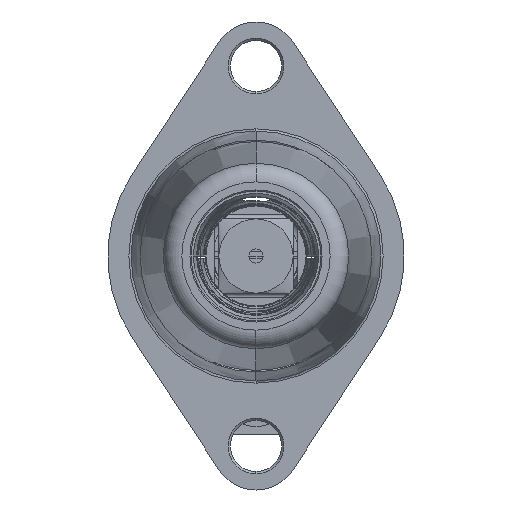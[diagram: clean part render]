
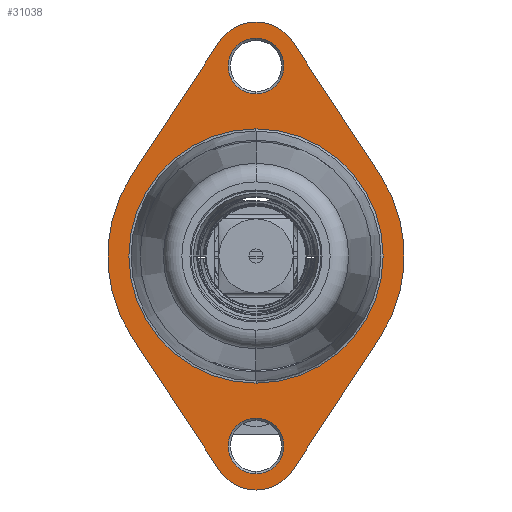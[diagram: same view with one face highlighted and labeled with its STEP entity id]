
A CAD part, left-side view. The second image highlights one B-rep face of the part: STEP entity #31038.
In plain terms, the highlighted planar face has unit normal (-1, 0, 0).
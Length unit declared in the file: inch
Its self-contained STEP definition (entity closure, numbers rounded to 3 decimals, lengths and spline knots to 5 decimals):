
#29484=CARTESIAN_POINT('',(-20.6994,0.005,0.));
#29485=DIRECTION('',(-1.,0.,0.));
#29486=DIRECTION('',(0.,0.,1.));
#29487=AXIS2_PLACEMENT_3D('',#29484,#29485,#29486);
#29489=CARTESIAN_POINT('',(-20.6994,0.005,2.5625));
#29490=DIRECTION('',(1.,0.,0.));
#29491=DIRECTION('',(0.,0.836,0.549));
#29492=AXIS2_PLACEMENT_3D('',#29489,#29490,#29491);
#29494=DIRECTION('',(0.,0.549,0.836));
#29495=VECTOR('',#29494,2.14233);
#29496=CARTESIAN_POINT('',(-20.6994,-1.66706,1.09737));
#29497=LINE('',#29496,#29495);
#29498=CARTESIAN_POINT('',(-20.6994,0.005,0.));
#29499=DIRECTION('',(1.,0.,0.));
#29500=DIRECTION('',(0.,-0.836,0.549));
#29501=AXIS2_PLACEMENT_3D('',#29498,#29499,#29500);
#29503=DIRECTION('',(0.,-0.549,0.836));
#29504=VECTOR('',#29503,2.14233);
#29505=CARTESIAN_POINT('',(-20.6994,-0.4916,-2.88842));
#29506=LINE('',#29505,#29504);
#29507=CARTESIAN_POINT('',(-20.6994,0.005,-2.5625));
#29508=DIRECTION('',(1.,0.,0.));
#29509=DIRECTION('',(0.,-0.836,-0.549));
#29510=AXIS2_PLACEMENT_3D('',#29507,#29508,#29509);
#29512=DIRECTION('',(0.,-0.549,-0.836));
#29513=VECTOR('',#29512,2.14233);
#29514=CARTESIAN_POINT('',(-20.6994,1.67706,-1.09737));
#29515=LINE('',#29514,#29513);
#29516=CARTESIAN_POINT('',(-20.6994,0.005,0.));
#29517=DIRECTION('',(1.,0.,0.));
#29518=DIRECTION('',(0.,0.836,-0.549));
#29519=AXIS2_PLACEMENT_3D('',#29516,#29517,#29518);
#29521=DIRECTION('',(0.,0.549,-0.836));
#29522=VECTOR('',#29521,2.14233);
#29523=CARTESIAN_POINT('',(-20.6994,0.5016,2.88842));
#29524=LINE('',#29523,#29522);
#30658=CARTESIAN_POINT('',(-20.6994,0.005,0.));
#30659=DIRECTION('',(1.,0.,0.));
#30660=DIRECTION('',(0.,0.,1.));
#30661=AXIS2_PLACEMENT_3D('',#30658,#30659,#30660);
#30756=CARTESIAN_POINT('',(-20.6994,0.005,2.5625));
#30757=DIRECTION('',(-1.,0.,0.));
#30758=DIRECTION('',(0.,0.,1.));
#30759=AXIS2_PLACEMENT_3D('',#30756,#30757,#30758);
#30766=CARTESIAN_POINT('',(-20.6994,0.005,2.5625));
#30767=DIRECTION('',(-1.,0.,0.));
#30768=DIRECTION('',(0.,0.,-1.));
#30769=AXIS2_PLACEMENT_3D('',#30766,#30767,#30768);
#30784=CARTESIAN_POINT('',(-20.6994,0.005,-2.5625));
#30785=DIRECTION('',(-1.,0.,0.));
#30786=DIRECTION('',(0.,0.,1.));
#30787=AXIS2_PLACEMENT_3D('',#30784,#30785,#30786);
#30794=CARTESIAN_POINT('',(-20.6994,0.005,-2.5625));
#30795=DIRECTION('',(-1.,0.,0.));
#30796=DIRECTION('',(0.,0.,-1.));
#30797=AXIS2_PLACEMENT_3D('',#30794,#30795,#30796);
#30876=CARTESIAN_POINT('',(-20.6994,0.005,1.715));
#30877=CARTESIAN_POINT('',(-20.6994,0.005,-1.715));
#30878=VERTEX_POINT('',#30876);
#30879=VERTEX_POINT('',#30877);
#30880=CARTESIAN_POINT('',(-20.6994,0.5016,2.88842));
#30881=CARTESIAN_POINT('',(-20.6994,-0.4916,2.88842));
#30882=VERTEX_POINT('',#30880);
#30883=VERTEX_POINT('',#30881);
#30884=CARTESIAN_POINT('',(-20.6994,1.67706,1.09737));
#30885=VERTEX_POINT('',#30884);
#30886=CARTESIAN_POINT('',(-20.6994,1.67706,-1.09737));
#30887=VERTEX_POINT('',#30886);
#30888=CARTESIAN_POINT('',(-20.6994,0.5016,-2.88842));
#30889=VERTEX_POINT('',#30888);
#30890=CARTESIAN_POINT('',(-20.6994,-0.4916,-2.88842));
#30891=VERTEX_POINT('',#30890);
#30892=CARTESIAN_POINT('',(-20.6994,-1.66706,-1.09737));
#30893=VERTEX_POINT('',#30892);
#30894=CARTESIAN_POINT('',(-20.6994,-1.66706,1.09737));
#30895=VERTEX_POINT('',#30894);
#30928=CARTESIAN_POINT('',(-20.6994,0.005,2.9375));
#30929=CARTESIAN_POINT('',(-20.6994,0.005,2.1875));
#30930=VERTEX_POINT('',#30928);
#30931=VERTEX_POINT('',#30929);
#30936=CARTESIAN_POINT('',(-20.6994,0.005,-2.1875));
#30937=CARTESIAN_POINT('',(-20.6994,0.005,-2.9375));
#30938=VERTEX_POINT('',#30936);
#30939=VERTEX_POINT('',#30937);
#30997=CARTESIAN_POINT('',(-20.6994,0.005,0.));
#30998=DIRECTION('',(1.,0.,0.));
#30999=DIRECTION('',(0.,0.,-1.));
#31000=AXIS2_PLACEMENT_3D('',#30997,#30998,#30999);
#31001=PLANE('',#31000);
#31003=ORIENTED_EDGE('',*,*,#31002,.T.);
#31005=ORIENTED_EDGE('',*,*,#31004,.F.);
#31007=ORIENTED_EDGE('',*,*,#31006,.T.);
#31009=ORIENTED_EDGE('',*,*,#31008,.F.);
#31011=ORIENTED_EDGE('',*,*,#31010,.T.);
#31013=ORIENTED_EDGE('',*,*,#31012,.F.);
#31015=ORIENTED_EDGE('',*,*,#31014,.T.);
#31017=ORIENTED_EDGE('',*,*,#31016,.F.);
#31018=EDGE_LOOP('',(#31003,#31005,#31007,#31009,#31011,#31013,#31015,#31017));
#31019=FACE_OUTER_BOUND('',#31018,.F.);
#31021=ORIENTED_EDGE('',*,*,#31020,.F.);
#31023=ORIENTED_EDGE('',*,*,#31022,.T.);
#31024=EDGE_LOOP('',(#31021,#31023));
#31025=FACE_BOUND('',#31024,.F.);
#31027=ORIENTED_EDGE('',*,*,#31026,.T.);
#31029=ORIENTED_EDGE('',*,*,#31028,.T.);
#31030=EDGE_LOOP('',(#31027,#31029));
#31031=FACE_BOUND('',#31030,.F.);
#31033=ORIENTED_EDGE('',*,*,#31032,.T.);
#31035=ORIENTED_EDGE('',*,*,#31034,.T.);
#31036=EDGE_LOOP('',(#31033,#31035));
#31037=FACE_BOUND('',#31036,.F.);
#31038=ADVANCED_FACE('',(#31019,#31025,#31031,#31037),#31001,.F.);
#29488=CIRCLE('',#29487,1.715);
#29493=CIRCLE('',#29492,0.594);
#29502=CIRCLE('',#29501,2.);
#29511=CIRCLE('',#29510,0.594);
#29520=CIRCLE('',#29519,2.);
#30662=CIRCLE('',#30661,1.715);
#30760=CIRCLE('',#30759,0.375);
#30770=CIRCLE('',#30769,0.375);
#30788=CIRCLE('',#30787,0.375);
#30798=CIRCLE('',#30797,0.375);
#31002=EDGE_CURVE('',#30882,#30883,#29493,.T.);
#31004=EDGE_CURVE('',#30895,#30883,#29497,.T.);
#31006=EDGE_CURVE('',#30895,#30893,#29502,.T.);
#31008=EDGE_CURVE('',#30891,#30893,#29506,.T.);
#31010=EDGE_CURVE('',#30891,#30889,#29511,.T.);
#31012=EDGE_CURVE('',#30887,#30889,#29515,.T.);
#31014=EDGE_CURVE('',#30887,#30885,#29520,.T.);
#31016=EDGE_CURVE('',#30882,#30885,#29524,.T.);
#31020=EDGE_CURVE('',#30878,#30879,#30662,.T.);
#31022=EDGE_CURVE('',#30878,#30879,#29488,.T.);
#31026=EDGE_CURVE('',#30931,#30930,#30770,.T.);
#31028=EDGE_CURVE('',#30930,#30931,#30760,.T.);
#31032=EDGE_CURVE('',#30939,#30938,#30798,.T.);
#31034=EDGE_CURVE('',#30938,#30939,#30788,.T.);
